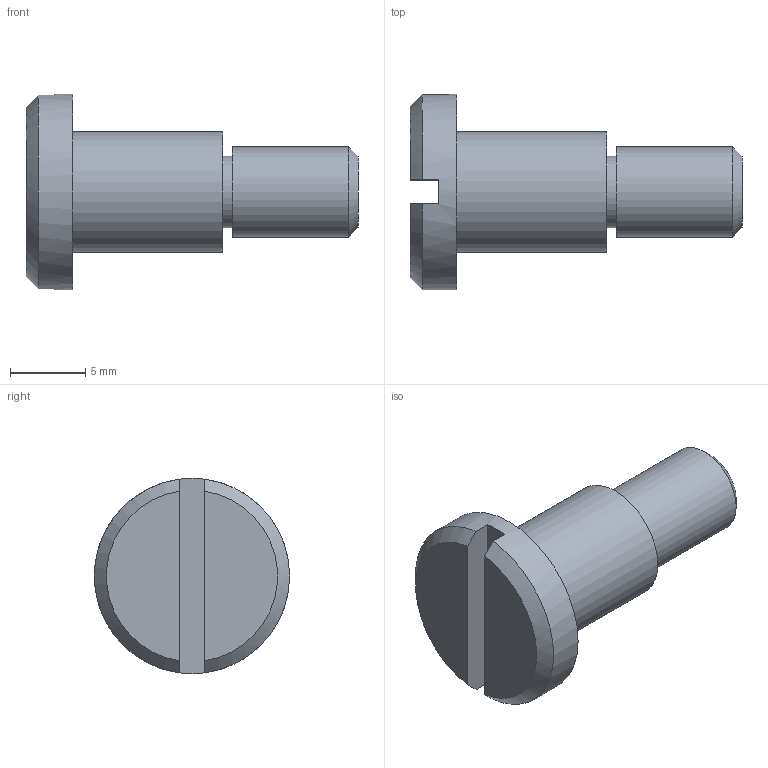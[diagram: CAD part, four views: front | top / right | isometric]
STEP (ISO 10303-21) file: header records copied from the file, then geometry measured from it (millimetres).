
FILE_DESCRIPTION(/* description */ ('홈붙이 냄비머리 나사'),/* implementation_level */ '2;1');
FILE_NAME(/* name */ '',/* time_stamp */ '2025-02-05T13:48:56+09:00',/* author */ ('jhkim'),/* organization */ (''),/* preprocessor_version */ 'ST-DEVELOPER v20',/* originating_system */ 'Autodesk Inventor 2025',/* authorisation */ '');
FILE_SCHEMA (('AUTOMOTIVE_DESIGN { 1 0 10303 214 3 1 1 }'));
Length unit declared in the file: millimetre
Products named in the file (1): 스트리퍼 볼트  M6x10
Bounding box: 22.1 x 13 x 13 mm (x, y, z)
Volume: 1108 mm3; surface area: 847.3 mm2
Topology: 1 solids, 1 shells, 16 faces, 33 edges, 22 vertices
Faces by surface type: plane 9, cylinder 4, cone 3
Full cylindrical faces by diameter (mm): 4.773 x1, 6 x1, 8 x1, 13 x1
Entity records: 472 total; most frequent: CARTESIAN_POINT 80, DIRECTION 79, ORIENTED_EDGE 66, EDGE_CURVE 33, AXIS2_PLACEMENT_3D 33, VERTEX_POINT 22, EDGE_LOOP 19, FACE_OUTER_BOUND 16
